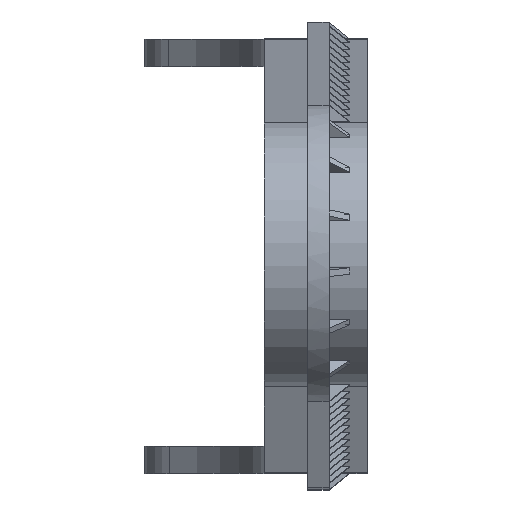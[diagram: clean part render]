
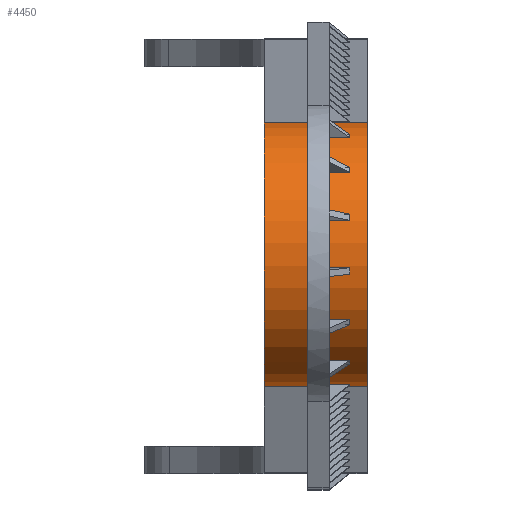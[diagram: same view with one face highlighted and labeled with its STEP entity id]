
A CAD part, top view. The second image highlights one B-rep face of the part: STEP entity #4450.
In plain terms, the highlighted cylindrical face has radius 24.5 mm (diameter 49 mm), a partial arc.
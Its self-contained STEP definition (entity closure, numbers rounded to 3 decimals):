
#35=CYLINDRICAL_SURFACE('',#4769,24.5);
#89=CIRCLE('',#4739,24.5);
#105=CIRCLE('',#4770,24.5);
#344=FACE_OUTER_BOUND('',#589,.T.);
#589=EDGE_LOOP('',(#3947,#3948,#3949,#3950,#3951,#3952));
#1090=LINE('',#7017,#1654);
#1114=LINE('',#7075,#1678);
#1118=LINE('',#7082,#1682);
#1121=LINE('',#7089,#1685);
#1654=VECTOR('',#5746,10.);
#1678=VECTOR('',#5810,10.);
#1682=VECTOR('',#5814,10.);
#1685=VECTOR('',#5819,10.);
#1849=VERTEX_POINT('',#6353);
#2052=VERTEX_POINT('',#7016);
#2066=VERTEX_POINT('',#7074);
#2069=VERTEX_POINT('',#7080);
#2071=VERTEX_POINT('',#7086);
#2072=VERTEX_POINT('',#7088);
#2635=EDGE_CURVE('',#2052,#1849,#1090,.T.);
#2665=EDGE_CURVE('',#2066,#2052,#1114,.T.);
#2669=EDGE_CURVE('',#1849,#2069,#1118,.T.);
#2672=EDGE_CURVE('',#2071,#2072,#1121,.T.);
#2687=EDGE_CURVE('',#2071,#2066,#89,.T.);
#2729=EDGE_CURVE('',#2072,#2069,#105,.T.);
#3947=ORIENTED_EDGE('',*,*,#2687,.T.);
#3948=ORIENTED_EDGE('',*,*,#2665,.T.);
#3949=ORIENTED_EDGE('',*,*,#2635,.T.);
#3950=ORIENTED_EDGE('',*,*,#2669,.T.);
#3951=ORIENTED_EDGE('',*,*,#2729,.F.);
#3952=ORIENTED_EDGE('',*,*,#2672,.F.);
#4450=ADVANCED_FACE('',(#344),#35,.T.);
#4739=AXIS2_PLACEMENT_3D('',#7117,#5852,#5853);
#4769=AXIS2_PLACEMENT_3D('',#7198,#5938,#5939);
#4770=AXIS2_PLACEMENT_3D('',#7199,#5940,#5941);
#5746=DIRECTION('',(1.,0.,0.));
#5810=DIRECTION('',(1.,0.,0.));
#5814=DIRECTION('',(1.,0.,0.));
#5819=DIRECTION('',(1.,0.,0.));
#5852=DIRECTION('center_axis',(1.,0.,0.));
#5853=DIRECTION('ref_axis',(0.,0.992,0.124));
#5938=DIRECTION('center_axis',(1.,0.,0.));
#5939=DIRECTION('ref_axis',(0.,0.992,0.124));
#5940=DIRECTION('center_axis',(1.,0.,0.));
#5941=DIRECTION('ref_axis',(0.,0.992,0.124));
#6353=CARTESIAN_POINT('',(12.,-24.311,3.034));
#7016=CARTESIAN_POINT('',(8.,-24.311,3.034));
#7017=CARTESIAN_POINT('',(0.,-24.311,3.034));
#7074=CARTESIAN_POINT('',(0.,-24.311,3.034));
#7075=CARTESIAN_POINT('',(0.,-24.311,3.034));
#7080=CARTESIAN_POINT('',(19.,-24.311,3.034));
#7082=CARTESIAN_POINT('',(0.,-24.311,3.034));
#7086=CARTESIAN_POINT('',(0.,24.311,3.034));
#7088=CARTESIAN_POINT('',(19.,24.311,3.034));
#7089=CARTESIAN_POINT('',(0.,24.311,3.034));
#7117=CARTESIAN_POINT('Origin',(0.,0.,0.));
#7198=CARTESIAN_POINT('Origin',(0.,0.,0.));
#7199=CARTESIAN_POINT('Origin',(19.,0.,0.));
